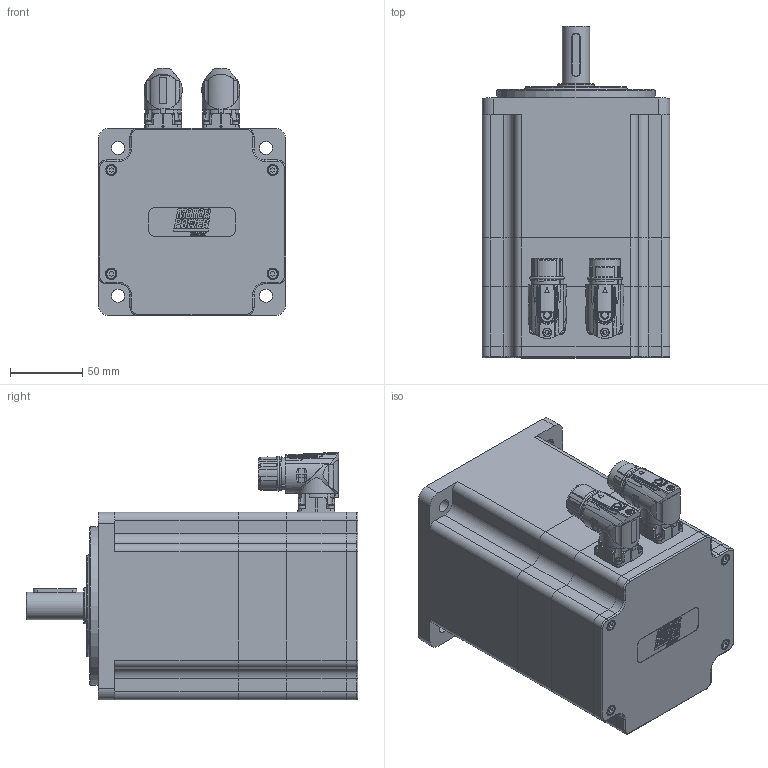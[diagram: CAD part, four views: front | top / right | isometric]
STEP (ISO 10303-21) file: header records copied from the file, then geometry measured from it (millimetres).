
FILE_DESCRIPTION(/* description */ ('Unknown'),/* implementation_level */ '2;1');
FILE_NAME(/* name */ 'TC4-130.5F.XX.X. 3.M1.1.1.C21 Q0C603',/* time_stamp */ '2026-03-05T15:24:56+01:00',/* author */ ('Unknown'),/* organization */ ('Unknown'),/* preprocessor_version */ 'ST-DEVELOPER v19.4',/* originating_system */ 'Solid Edge',/* authorisation */ 'Unknown');
FILE_SCHEMA (('AUTOMOTIVE_DESIGN {1 0 10303 214 3 1 1}'));
Products named in the file (14): Q0C603 5F M1 FRENO VUOTO; 005911000185; 005119002009; 007117000456; 003155002224; 005911000432; 003251022006; 005113000500; 003103040233; 005911000252; 007117000454; Albero TC4 130 5A A22; Corpo TC4-130 5F; Coperchio campana TC4-130 V8
Assembly tree (28 placements, depth 2):
  Q0C603 5F M1 FRENO VUOTO
    005911000185  x8
    005119002009
    007117000456
    003155002224
    005911000432  x6
    003251022006
    005113000500
    003103040233
    005911000252  x4
    007117000454
    Albero TC4 130 5A A22
    Corpo TC4-130 5F
    Coperchio campana TC4-130 V8
Bounding box: 130 x 230 x 171.5 mm (x, y, z)
Volume: 1108991.2 mm3; surface area: 349573.6 mm2
Topology: 30 solids, 30 shells, 2093 faces, 5260 edges, 3386 vertices
Faces by surface type: plane 922, cylinder 534, cone 249, bspline 225, torus 114, sphere 49
Full cylindrical faces by diameter (mm): 0.5 x1, 1 x21, 1.2 x17, 1.4 x4, 2 x4, 2.013 x16, 2.459 x2, 2.5 x8, 2.8 x4, 3 x12, 3.242 x40, 4 x11, 4.134 x8, 4.5 x16, 4.7 x8, 4.917 x2, 5.5 x6, 5.8 x1, 5.9 x2, 6 x1, 6.8 x1, 7 x10, 8 x14, 10 x5, 15.2 x1, 16 x1, 17.4 x3, 18 x1, 19 x2, 19.9 x1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
Entity records: 70427 total; most frequent: CARTESIAN_POINT 18707, ORIENTED_EDGE 8438, DIRECTION 8181, EDGE_CURVE 4219, AXIS2_PLACEMENT_3D 3141, VERTEX_POINT 2956, FACE_BOUND 2529, EDGE_LOOP 2497
